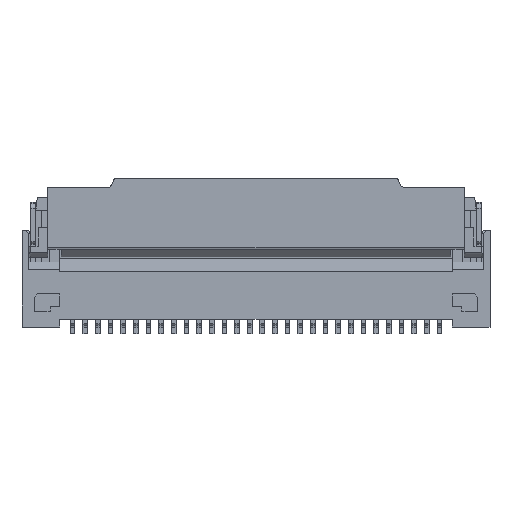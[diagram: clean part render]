
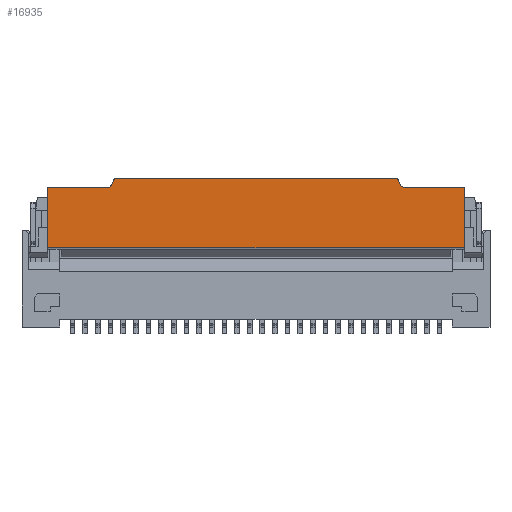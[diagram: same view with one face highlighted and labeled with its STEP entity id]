
A CAD part, top view. The second image highlights one B-rep face of the part: STEP entity #16935.
In plain terms, the highlighted planar face has unit normal (0, 0, 1).
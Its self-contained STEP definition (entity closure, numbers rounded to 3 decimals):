
#135 = ORIENTED_EDGE ( 'NONE', *, *, #14617, .F. ) ;
#143 = CARTESIAN_POINT ( 'NONE',  ( -14.497, 0.917, 1.12 ) ) ;
#506 = ORIENTED_EDGE ( 'NONE', *, *, #973, .F. ) ;
#973 = EDGE_CURVE ( 'NONE', #10531, #22020, #4339, .T. ) ;
#1126 = CARTESIAN_POINT ( 'NONE',  ( -14.653, 0.663, 1.12 ) ) ;
#1171 = CARTESIAN_POINT ( 'NONE',  ( -3.41, 0.65, 1.12 ) ) ;
#1311 = B_SPLINE_CURVE_WITH_KNOTS ( 'NONE', 3,
 ( #5559, #17257, #3588, #7525, #21238, #9469 ),
 .UNSPECIFIED., .F., .F.,
 ( 4, 2, 4 ),
 ( 0., 0.5, 1. ),
 .UNSPECIFIED. ) ;
#1588 = CARTESIAN_POINT ( 'NONE',  ( -3.41, 0., 1.12 ) ) ;
#2047 = EDGE_CURVE ( 'NONE', #20327, #7728, #8259, .T. ) ;
#2177 = CARTESIAN_POINT ( 'NONE',  ( -14.45, 0.95, 1.12 ) ) ;
#2478 = ORIENTED_EDGE ( 'NONE', *, *, #13825, .F. ) ;
#2881 = VERTEX_POINT ( 'NONE', #14111 ) ;
#3055 = CARTESIAN_POINT ( 'NONE',  ( -14.56, 0.743, 1.12 ) ) ;
#3114 = VECTOR ( 'NONE', #16807, 1000. ) ;
#3389 = DIRECTION ( 'NONE',  ( 1., 0., 0. ) ) ;
#3442 = CARTESIAN_POINT ( 'NONE',  ( -5.454, 0.781, 1.12 ) ) ;
#3588 = CARTESIAN_POINT ( 'NONE',  ( -5.414, 0.709, 1.12 ) ) ;
#3891 = EDGE_CURVE ( 'NONE', #2881, #20327, #10939, .T. ) ;
#4016 = AXIS2_PLACEMENT_3D ( 'NONE', #13360, #11466, #25232 ) ;
#4084 = CARTESIAN_POINT ( 'NONE',  ( -14.497, 0.917, 1.12 ) ) ;
#4339 = LINE ( 'NONE', #8204, #25260 ) ;
#5559 = CARTESIAN_POINT ( 'NONE',  ( -5.454, 0.781, 1.12 ) ) ;
#5588 = PLANE ( 'NONE',  #4016 ) ;
#5904 = CARTESIAN_POINT ( 'NONE',  ( -14.734, 0.65, 1.12 ) ) ;
#6233 = VERTEX_POINT ( 'NONE', #4084 ) ;
#6885 = DIRECTION ( 'NONE',  ( 0.342, 0.94, 0. ) ) ;
#6891 = VECTOR ( 'NONE', #3389, 1000. ) ;
#7310 = ORIENTED_EDGE ( 'NONE', *, *, #2047, .F. ) ;
#7444 = VERTEX_POINT ( 'NONE', #1171 ) ;
#7462 = ORIENTED_EDGE ( 'NONE', *, *, #21734, .F. ) ;
#7525 = CARTESIAN_POINT ( 'NONE',  ( -5.347, 0.663, 1.12 ) ) ;
#7728 = VERTEX_POINT ( 'NONE', #11767 ) ;
#7939 = EDGE_CURVE ( 'NONE', #16471, #17842, #15699, .T. ) ;
#7995 = EDGE_CURVE ( 'NONE', #15717, #6233, #15114, .T. ) ;
#8200 = CARTESIAN_POINT ( 'NONE',  ( -5.503, 0.917, 1.12 ) ) ;
#8204 = CARTESIAN_POINT ( 'NONE',  ( -5.503, 0.917, 1.12 ) ) ;
#8259 = LINE ( 'NONE', #16374, #3114 ) ;
#8289 = DIRECTION ( 'NONE',  ( 0.342, -0.94, 0. ) ) ;
#8579 = B_SPLINE_CURVE_WITH_KNOTS ( 'NONE', 3,
 ( #22604, #24551, #1126, #14715, #3055, #16704 ),
 .UNSPECIFIED., .F., .F.,
 ( 4, 2, 4 ),
 ( 0., 0.5, 1. ),
 .UNSPECIFIED. ) ;
#9229 = ORIENTED_EDGE ( 'NONE', *, *, #23504, .F. ) ;
#9361 = VERTEX_POINT ( 'NONE', #5904 ) ;
#9469 = CARTESIAN_POINT ( 'NONE',  ( -5.266, 0.65, 1.12 ) ) ;
#10077 = LINE ( 'NONE', #1588, #19927 ) ;
#10142 = ORIENTED_EDGE ( 'NONE', *, *, #14970, .F. ) ;
#10531 = VERTEX_POINT ( 'NONE', #24609 ) ;
#10939 = LINE ( 'NONE', #14776, #16111 ) ;
#11130 = VECTOR ( 'NONE', #12506, 1000. ) ;
#11301 = EDGE_CURVE ( 'NONE', #22020, #21437, #1311, .T. ) ;
#11466 = DIRECTION ( 'NONE',  ( 0., 0., -1. ) ) ;
#11767 = CARTESIAN_POINT ( 'NONE',  ( -16.59, 0.65, 1.12 ) ) ;
#12056 = CARTESIAN_POINT ( 'NONE',  ( -14.45, 0.95, 1.12 ) ) ;
#12506 = DIRECTION ( 'NONE',  ( 1., 0., 0. ) ) ;
#13243 = DIRECTION ( 'NONE',  ( 0., -1., 0. ) ) ;
#13360 = CARTESIAN_POINT ( 'NONE',  ( 0., 0., 1.12 ) ) ;
#13825 = EDGE_CURVE ( 'NONE', #9361, #15717, #8579, .T. ) ;
#13829 = CARTESIAN_POINT ( 'NONE',  ( -14.47, 0.95, 1.12 ) ) ;
#13879 = LINE ( 'NONE', #20579, #23763 ) ;
#14111 = CARTESIAN_POINT ( 'NONE',  ( -3.41, -1.248, 1.12 ) ) ;
#14395 = ORIENTED_EDGE ( 'NONE', *, *, #24828, .F. ) ;
#14617 = EDGE_CURVE ( 'NONE', #21437, #7444, #16032, .T. ) ;
#14639 = CARTESIAN_POINT ( 'NONE',  ( -14.497, 0.917, 1.12 ) ) ;
#14715 = CARTESIAN_POINT ( 'NONE',  ( -14.586, 0.709, 1.12 ) ) ;
#14774 = EDGE_LOOP ( 'NONE', ( #135, #22859, #506, #7462, #24820, #14395, #23287, #2478, #10142, #7310, #20118, #9229 ) ) ;
#14776 = CARTESIAN_POINT ( 'NONE',  ( 0., -1.248, 1.12 ) ) ;
#14842 = DIRECTION ( 'NONE',  ( -1., 0., 0. ) ) ;
#14970 = EDGE_CURVE ( 'NONE', #7728, #9361, #13879, .T. ) ;
#15072 = CARTESIAN_POINT ( 'NONE',  ( 0., 0.65, 1.12 ) ) ;
#15114 = LINE ( 'NONE', #14639, #19733 ) ;
#15474 = B_SPLINE_CURVE_WITH_KNOTS ( 'NONE', 3,
 ( #143, #15718, #13829, #2177 ),
 .UNSPECIFIED., .F., .F.,
 ( 4, 4 ),
 ( 0., 1. ),
 .UNSPECIFIED. ) ;
#15699 = LINE ( 'NONE', #18347, #11130 ) ;
#15717 = VERTEX_POINT ( 'NONE', #18663 ) ;
#15718 = CARTESIAN_POINT ( 'NONE',  ( -14.49, 0.936, 1.12 ) ) ;
#15970 = CARTESIAN_POINT ( 'NONE',  ( -5.53, 0.95, 1.12 ) ) ;
#16032 = LINE ( 'NONE', #15072, #6891 ) ;
#16111 = VECTOR ( 'NONE', #14842, 1000. ) ;
#16374 = CARTESIAN_POINT ( 'NONE',  ( -16.59, 0.65, 1.12 ) ) ;
#16471 = VERTEX_POINT ( 'NONE', #12056 ) ;
#16704 = CARTESIAN_POINT ( 'NONE',  ( -14.546, 0.781, 1.12 ) ) ;
#16807 = DIRECTION ( 'NONE',  ( 0., 1., 0. ) ) ;
#16935 = ADVANCED_FACE ( 'NONE', ( #19983 ), #5588, .F. ) ;
#17257 = CARTESIAN_POINT ( 'NONE',  ( -5.44, 0.743, 1.12 ) ) ;
#17682 = B_SPLINE_CURVE_WITH_KNOTS ( 'NONE', 3,
 ( #17976, #15970, #19950, #8200 ),
 .UNSPECIFIED., .F., .F.,
 ( 4, 4 ),
 ( 0., 1. ),
 .UNSPECIFIED. ) ;
#17842 = VERTEX_POINT ( 'NONE', #21348 ) ;
#17976 = CARTESIAN_POINT ( 'NONE',  ( -5.55, 0.95, 1.12 ) ) ;
#18347 = CARTESIAN_POINT ( 'NONE',  ( 0., 0.95, 1.12 ) ) ;
#18663 = CARTESIAN_POINT ( 'NONE',  ( -14.546, 0.781, 1.12 ) ) ;
#19733 = VECTOR ( 'NONE', #6885, 1000. ) ;
#19927 = VECTOR ( 'NONE', #13243, 1000. ) ;
#19950 = CARTESIAN_POINT ( 'NONE',  ( -5.51, 0.936, 1.12 ) ) ;
#19983 = FACE_OUTER_BOUND ( 'NONE', #14774, .T. ) ;
#20118 = ORIENTED_EDGE ( 'NONE', *, *, #3891, .F. ) ;
#20327 = VERTEX_POINT ( 'NONE', #21804 ) ;
#20579 = CARTESIAN_POINT ( 'NONE',  ( 0., 0.65, 1.12 ) ) ;
#21054 = CARTESIAN_POINT ( 'NONE',  ( -5.266, 0.65, 1.12 ) ) ;
#21238 = CARTESIAN_POINT ( 'NONE',  ( -5.306, 0.65, 1.12 ) ) ;
#21348 = CARTESIAN_POINT ( 'NONE',  ( -5.55, 0.95, 1.12 ) ) ;
#21437 = VERTEX_POINT ( 'NONE', #21054 ) ;
#21734 = EDGE_CURVE ( 'NONE', #17842, #10531, #17682, .T. ) ;
#21804 = CARTESIAN_POINT ( 'NONE',  ( -16.59, -1.248, 1.12 ) ) ;
#22020 = VERTEX_POINT ( 'NONE', #3442 ) ;
#22581 = DIRECTION ( 'NONE',  ( 1., 0., 0. ) ) ;
#22604 = CARTESIAN_POINT ( 'NONE',  ( -14.734, 0.65, 1.12 ) ) ;
#22859 = ORIENTED_EDGE ( 'NONE', *, *, #11301, .F. ) ;
#23287 = ORIENTED_EDGE ( 'NONE', *, *, #7995, .F. ) ;
#23504 = EDGE_CURVE ( 'NONE', #7444, #2881, #10077, .T. ) ;
#23763 = VECTOR ( 'NONE', #22581, 1000. ) ;
#24551 = CARTESIAN_POINT ( 'NONE',  ( -14.694, 0.65, 1.12 ) ) ;
#24609 = CARTESIAN_POINT ( 'NONE',  ( -5.503, 0.917, 1.12 ) ) ;
#24820 = ORIENTED_EDGE ( 'NONE', *, *, #7939, .F. ) ;
#24828 = EDGE_CURVE ( 'NONE', #6233, #16471, #15474, .T. ) ;
#25232 = DIRECTION ( 'NONE',  ( -1., 0., 0. ) ) ;
#25260 = VECTOR ( 'NONE', #8289, 1000. ) ;
